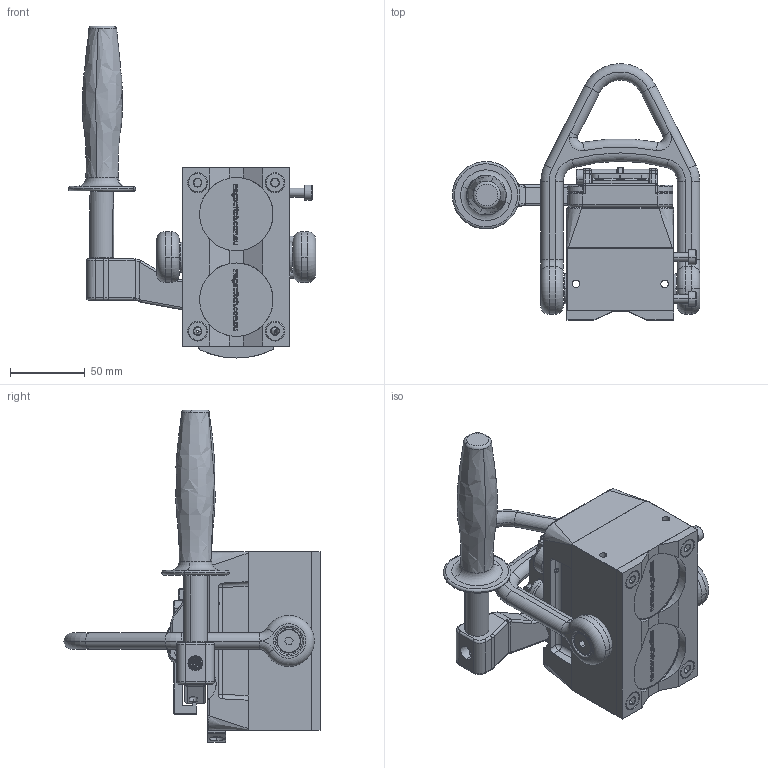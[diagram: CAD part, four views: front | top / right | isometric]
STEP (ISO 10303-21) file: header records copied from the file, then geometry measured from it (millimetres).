
FILE_DESCRIPTION (( 'STEP AP203' ), '1' );
FILE_NAME ('8000360_p.STEP', '2013-10-02T14:33:33', ( '' ), ( '' ), 'SwSTEP 2.0', 'SolidWorks 2010', '' );
FILE_SCHEMA (( 'CONFIG_CONTROL_DESIGN' ));
Products named in the file (1): 8000360_p
Bounding box: 165 x 170.8 x 221.37 mm (x, y, z)
Surface area: 129816.1 mm2 (no closed solid volume)
Topology: 0 solids, 139 shells, 1347 faces, 5904 edges, 4545 vertices
Faces by surface type: plane 629, cylinder 349, cone 191, torus 114, bspline 52, sphere 12
Entity records: 97465 total; most frequent: CARTESIAN_POINT 52124, DIRECTION 8772, ORIENTED_EDGE 8097, EDGE_CURVE 5893, VERTEX_POINT 4545, VECTOR 3796, LINE 3796, AXIS2_PLACEMENT_3D 2488
